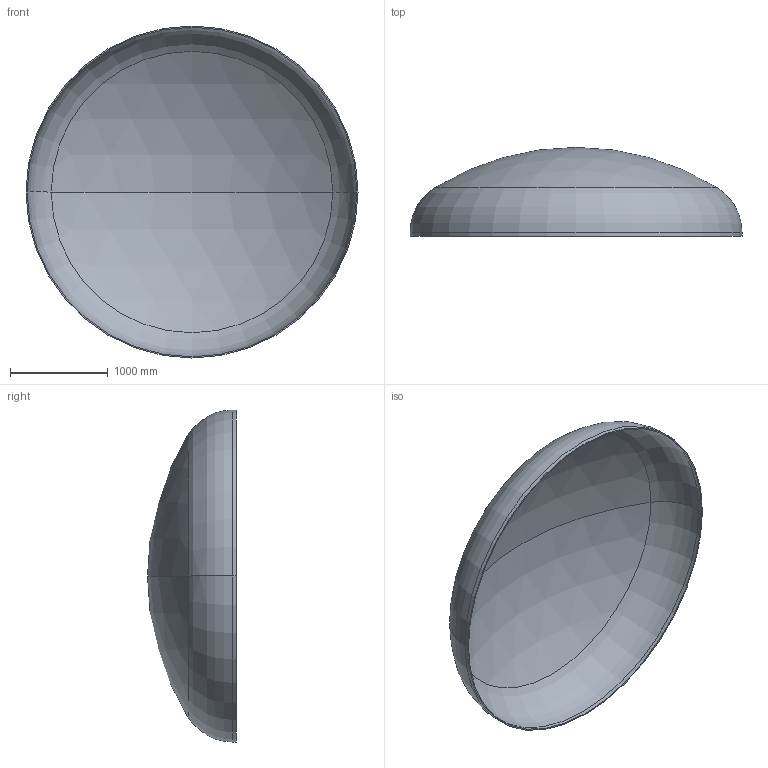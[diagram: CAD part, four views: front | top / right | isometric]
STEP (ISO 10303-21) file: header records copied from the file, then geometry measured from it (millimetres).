
FILE_DESCRIPTION (( 'STEP AP203' ), '1' );
FILE_NAME ('DIN 28013 Korbbogenform_-_Boden DIN 28013 - 3400 x 40 - I - s=12.step', '2016-07-01T19:11:05', ( '' ), ( '' ), 'SwSTEP 2.0', 'SolidWorks 2013', '' );
FILE_SCHEMA (( 'CONFIG_CONTROL_DESIGN' ));
Length unit declared in the file: millimetre
Products named in the file (1): DIN 28013 Korbbogenform_-_Boden DIN 28013 - 3400 x 40 - I - s=12
Bounding box: 3400 x 910.43 x 3400 mm (x, y, z)
Volume: 155388392.9 mm3; surface area: 26026081.2 mm2
Topology: 1 solids, 1 shells, 13 faces, 24 edges, 14 vertices
Faces by surface type: torus 4, cylinder 4, sphere 4, plane 1
Entity records: 407 total; most frequent: DIRECTION 72, CARTESIAN_POINT 52, ORIENTED_EDGE 48, AXIS2_PLACEMENT_3D 34, EDGE_CURVE 24, CIRCLE 20, VERTEX_POINT 14, EDGE_LOOP 14
